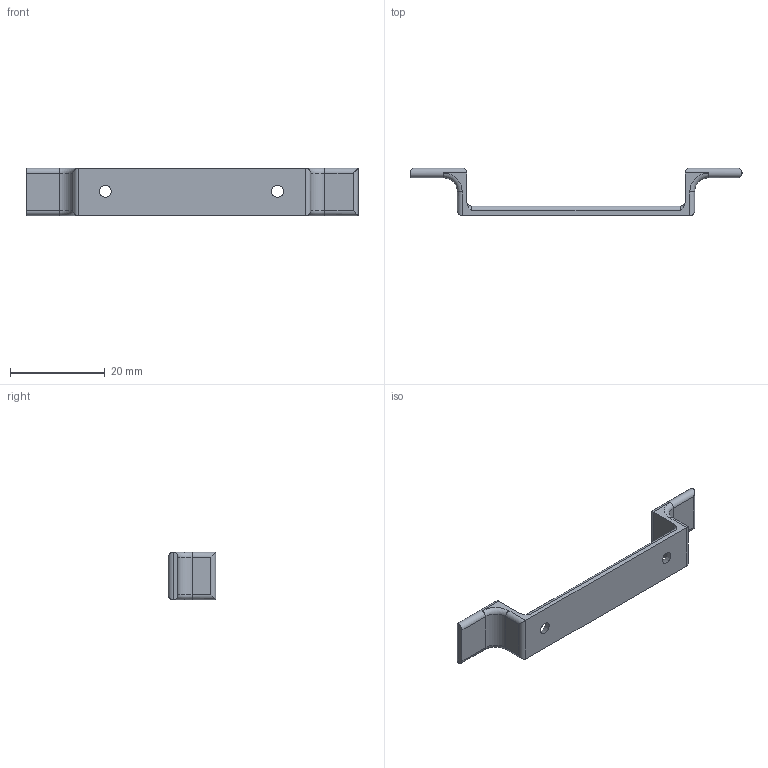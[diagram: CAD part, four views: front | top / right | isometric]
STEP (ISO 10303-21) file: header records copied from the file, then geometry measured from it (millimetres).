
FILE_DESCRIPTION(('STEP AP203'), '1');
FILE_NAME('êàòóøêà äëÿ ïðîâîäà çâóêîñíèìàòåëÿ', '', ('UNSPECIFIED'), ('UNSPECIFIED'), 'ASCON STEP Converter 1.3', 'ASCON Math Kernel', '');
FILE_SCHEMA(('CONFIG_CONTROL_DESIGN'));
Length unit declared in the file: millimetre
Bounding box: 70 x 10 x 10 mm (x, y, z)
Volume: 1661.4 mm3; surface area: 1965.2 mm2
Topology: 1 solids, 1 shells, 43 faces, 103 edges, 62 vertices
Faces by surface type: cylinder 20, plane 13, torus 8, cone 2
Entity records: 1761 total; most frequent: CARTESIAN_POINT 395, DIRECTION 207, ORIENTED_EDGE 202, EDGE_CURVE 101, AXIS2_PLACEMENT_3D 78, VERTEX_POINT 62, LINE 51, VECTOR 51
